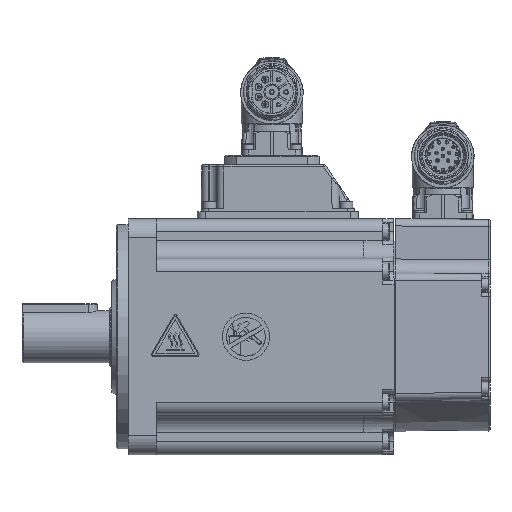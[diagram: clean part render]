
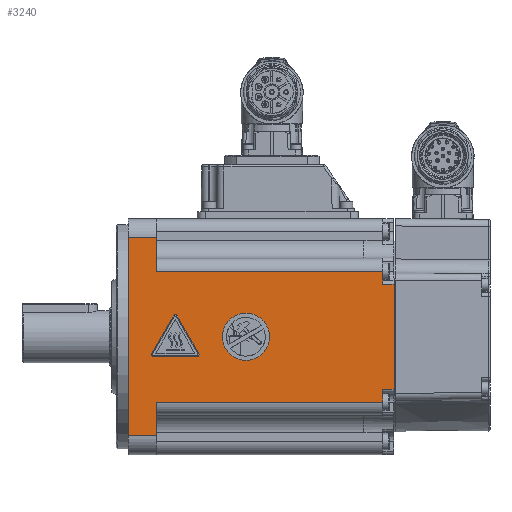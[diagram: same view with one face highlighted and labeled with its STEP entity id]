
A CAD part, front view. The second image highlights one B-rep face of the part: STEP entity #3240.
In plain terms, the highlighted planar face has unit normal (0, -1, 0).
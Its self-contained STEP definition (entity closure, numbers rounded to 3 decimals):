
#3240 = ADVANCED_FACE( '', ( #8790, #8791, #8792 ), #8793, .T. );
#8790 = FACE_BOUND( '', #18365, .T. );
#8791 = FACE_OUTER_BOUND( '', #18366, .T. );
#8792 = FACE_BOUND( '', #18367, .T. );
#8793 = PLANE( '', #18368 );
#18365 = EDGE_LOOP( '', ( #34633 ) );
#18366 = EDGE_LOOP( '', ( #34634, #34635, #34636, #34637, #34638, #34639, #34640, #34641, #34642, #34643, #34644, #34645, #34646 ) );
#18367 = EDGE_LOOP( '', ( #34647, #34648, #34649, #34650, #34651, #34652 ) );
#18368 = AXIS2_PLACEMENT_3D( '', #34653, #34654, #34655 );
#34633 = ORIENTED_EDGE( '', *, *, #55767, .F. );
#34634 = ORIENTED_EDGE( '', *, *, #55768, .T. );
#34635 = ORIENTED_EDGE( '', *, *, #55769, .T. );
#34636 = ORIENTED_EDGE( '', *, *, #55770, .T. );
#34637 = ORIENTED_EDGE( '', *, *, #55771, .T. );
#34638 = ORIENTED_EDGE( '', *, *, #55772, .T. );
#34639 = ORIENTED_EDGE( '', *, *, #55773, .T. );
#34640 = ORIENTED_EDGE( '', *, *, #55774, .T. );
#34641 = ORIENTED_EDGE( '', *, *, #54843, .T. );
#34642 = ORIENTED_EDGE( '', *, *, #55775, .F. );
#34643 = ORIENTED_EDGE( '', *, *, #55776, .T. );
#34644 = ORIENTED_EDGE( '', *, *, #55777, .T. );
#34645 = ORIENTED_EDGE( '', *, *, #55778, .T. );
#34646 = ORIENTED_EDGE( '', *, *, #55779, .F. );
#34647 = ORIENTED_EDGE( '', *, *, #55780, .F. );
#34648 = ORIENTED_EDGE( '', *, *, #55781, .F. );
#34649 = ORIENTED_EDGE( '', *, *, #55782, .F. );
#34650 = ORIENTED_EDGE( '', *, *, #55783, .F. );
#34651 = ORIENTED_EDGE( '', *, *, #55784, .F. );
#34652 = ORIENTED_EDGE( '', *, *, #55785, .F. );
#34653 = CARTESIAN_POINT( '', ( 138.642, -50., -50. ) );
#34654 = DIRECTION( '', ( 0., -1., 0. ) );
#34655 = DIRECTION( '', ( 1., 0., 0. ) );
#54843 = EDGE_CURVE( '', #64789, #64790, #64791, .T. );
#55767 = EDGE_CURVE( '', #66384, #66384, #66385, .T. );
#55768 = EDGE_CURVE( '', #66386, #66387, #66388, .T. );
#55769 = EDGE_CURVE( '', #66387, #66389, #66390, .T. );
#55770 = EDGE_CURVE( '', #66389, #66391, #66392, .F. );
#55771 = EDGE_CURVE( '', #66391, #66393, #66394, .T. );
#55772 = EDGE_CURVE( '', #66393, #66395, #66396, .T. );
#55773 = EDGE_CURVE( '', #66395, #66397, #66398, .F. );
#55774 = EDGE_CURVE( '', #66397, #64789, #66399, .T. );
#55775 = EDGE_CURVE( '', #66400, #64790, #66401, .T. );
#55776 = EDGE_CURVE( '', #66400, #66402, #66403, .T. );
#55777 = EDGE_CURVE( '', #66402, #66404, #66405, .T. );
#55778 = EDGE_CURVE( '', #66404, #66406, #66407, .F. );
#55779 = EDGE_CURVE( '', #66386, #66406, #66408, .T. );
#55780 = EDGE_CURVE( 'NONE', #66409, #66410, #66411, .T. );
#55781 = EDGE_CURVE( 'NONE', #66412, #66409, #66413, .T. );
#55782 = EDGE_CURVE( 'NONE', #66414, #66412, #66415, .T. );
#55783 = EDGE_CURVE( 'NONE', #66416, #66414, #66417, .T. );
#55784 = EDGE_CURVE( 'NONE', #66418, #66416, #66419, .T. );
#55785 = EDGE_CURVE( 'NONE', #66410, #66418, #66420, .T. );
#64789 = VERTEX_POINT( '', #80900 );
#64790 = VERTEX_POINT( '', #80901 );
#64791 = LINE( '', #80902, #80903 );
#66384 = VERTEX_POINT( '', #83919 );
#66385 = CIRCLE( '', #83920, 10. );
#66386 = VERTEX_POINT( '', #83921 );
#66387 = VERTEX_POINT( '', #83922 );
#66388 = LINE( '', #83923, #83924 );
#66389 = VERTEX_POINT( '', #83925 );
#66390 = LINE( '', #83926, #83927 );
#66391 = VERTEX_POINT( '', #83928 );
#66392 = LINE( '', #83929, #83930 );
#66393 = VERTEX_POINT( '', #83931 );
#66394 = LINE( '', #83932, #83933 );
#66395 = VERTEX_POINT( '', #83934 );
#66396 = LINE( '', #83935, #83936 );
#66397 = VERTEX_POINT( '', #83937 );
#66398 = LINE( '', #83938, #83939 );
#66399 = LINE( '', #83940, #83941 );
#66400 = VERTEX_POINT( '', #83942 );
#66401 = LINE( '', #83943, #83944 );
#66402 = VERTEX_POINT( '', #83945 );
#66403 = LINE( '', #83946, #83947 );
#66404 = VERTEX_POINT( '', #83948 );
#66405 = LINE( '', #83949, #83950 );
#66406 = VERTEX_POINT( '', #83951 );
#66407 = LINE( '', #83952, #83953 );
#66408 = LINE( '', #83954, #83955 );
#66409 = VERTEX_POINT( 'NONE', #83956 );
#66410 = VERTEX_POINT( 'NONE', #83957 );
#66411 = CIRCLE( '', #83958, 1. );
#66412 = VERTEX_POINT( 'NONE', #83959 );
#66413 = LINE( '', #83960, #83961 );
#66414 = VERTEX_POINT( 'NONE', #83962 );
#66415 = CIRCLE( '', #83963, 1. );
#66416 = VERTEX_POINT( '', #83964 );
#66417 = LINE( '', #83965, #83966 );
#66418 = VERTEX_POINT( 'NONE', #83967 );
#66419 = CIRCLE( '', #83968, 1. );
#66420 = LINE( '', #83969, #83970 );
#80900 = CARTESIAN_POINT( '', ( -13.25, -50., 27.75 ) );
#80901 = CARTESIAN_POINT( '', ( -109.25, -50., 27.75 ) );
#80902 = CARTESIAN_POINT( '', ( 138.642, -50., 27.75 ) );
#80903 = VECTOR( '', #105741, 1000. );
#83919 = CARTESIAN_POINT( '', ( -71.25, -50., -10. ) );
#83920 = AXIS2_PLACEMENT_3D( '', #106945, #106946, #106947 );
#83921 = CARTESIAN_POINT( '', ( -109.25, -50., -27.75 ) );
#83922 = CARTESIAN_POINT( '', ( -13.25, -50., -27.75 ) );
#83923 = CARTESIAN_POINT( '', ( 138.642, -50., -27.75 ) );
#83924 = VECTOR( '', #106948, 1000. );
#83925 = CARTESIAN_POINT( '', ( -13.25, -50., -22.25 ) );
#83926 = CARTESIAN_POINT( '', ( -13.25, -50., 50. ) );
#83927 = VECTOR( '', #106949, 1000. );
#83928 = CARTESIAN_POINT( '', ( -8.444, -50., -22.25 ) );
#83929 = CARTESIAN_POINT( '', ( -8.25, -50., -22.25 ) );
#83930 = VECTOR( '', #106950, 1000. );
#83931 = CARTESIAN_POINT( '', ( -8.25, -50., 0. ) );
#83932 = CARTESIAN_POINT( '', ( -7.818, -50., 49.545 ) );
#83933 = VECTOR( '', #106951, 1000. );
#83934 = CARTESIAN_POINT( '', ( -8.444, -50., 22.25 ) );
#83935 = CARTESIAN_POINT( '', ( -8.69, -50., 50.448 ) );
#83936 = VECTOR( '', #106952, 1000. );
#83937 = CARTESIAN_POINT( '', ( -13.25, -50., 22.25 ) );
#83938 = CARTESIAN_POINT( '', ( -13.25, -50., 22.25 ) );
#83939 = VECTOR( '', #106953, 1000. );
#83940 = CARTESIAN_POINT( '', ( -13.25, -50., 50. ) );
#83941 = VECTOR( '', #106954, 1000. );
#83942 = CARTESIAN_POINT( '', ( -109.25, -50., 42. ) );
#83943 = CARTESIAN_POINT( '', ( -109.25, -50., -50. ) );
#83944 = VECTOR( '', #106955, 1000. );
#83945 = CARTESIAN_POINT( '', ( -121.25, -50., 42. ) );
#83946 = CARTESIAN_POINT( '', ( 138.642, -50., 42. ) );
#83947 = VECTOR( '', #106956, 1000. );
#83948 = CARTESIAN_POINT( '', ( -121.25, -50., -42. ) );
#83949 = CARTESIAN_POINT( '', ( -121.25, -50., -50. ) );
#83950 = VECTOR( '', #106957, 1000. );
#83951 = CARTESIAN_POINT( '', ( -109.25, -50., -42. ) );
#83952 = CARTESIAN_POINT( '', ( 138.642, -50., -42. ) );
#83953 = VECTOR( '', #106958, 1000. );
#83954 = CARTESIAN_POINT( '', ( -109.25, -50., -50. ) );
#83955 = VECTOR( '', #106959, 1000. );
#83956 = CARTESIAN_POINT( '', ( -111.249, -50., -7. ) );
#83957 = CARTESIAN_POINT( '', ( -110.383, -50., -8.5 ) );
#83958 = AXIS2_PLACEMENT_3D( '', #106960, #106961, #106962 );
#83959 = CARTESIAN_POINT( '', ( -102.116, -50., 8.801 ) );
#83960 = CARTESIAN_POINT( '', ( -111.249, -50., -7. ) );
#83961 = VECTOR( '', #106963, 1000. );
#83962 = CARTESIAN_POINT( '', ( -100.384, -50., 8.801 ) );
#83963 = AXIS2_PLACEMENT_3D( '', #106964, #106965, #106966 );
#83964 = CARTESIAN_POINT( '', ( -91.251, -50., -7. ) );
#83965 = CARTESIAN_POINT( '', ( -100.384, -50., 8.801 ) );
#83966 = VECTOR( '', #106967, 1000. );
#83967 = CARTESIAN_POINT( '', ( -92.117, -50., -8.5 ) );
#83968 = AXIS2_PLACEMENT_3D( '', #106968, #106969, #106970 );
#83969 = CARTESIAN_POINT( '', ( -110.383, -50., -8.5 ) );
#83970 = VECTOR( '', #106971, 1000. );
#105741 = DIRECTION( '', ( -1., 0., 0. ) );
#106945 = CARTESIAN_POINT( '', ( -71.25, -50., 0. ) );
#106946 = DIRECTION( '', ( 0., -1., 0. ) );
#106947 = DIRECTION( '', ( 0., 0., -1. ) );
#106948 = DIRECTION( '', ( 1., 0., 0. ) );
#106949 = DIRECTION( '', ( 0., 0., 1. ) );
#106950 = DIRECTION( '', ( -1., 0., 0. ) );
#106951 = DIRECTION( '', ( 0.009, 0., 1. ) );
#106952 = DIRECTION( '', ( -0.009, 0., 1. ) );
#106953 = DIRECTION( '', ( 1., 0., 0. ) );
#106954 = DIRECTION( '', ( 0., 0., 1. ) );
#106955 = DIRECTION( '', ( 0., 0., -1. ) );
#106956 = DIRECTION( '', ( -1., 0., 0. ) );
#106957 = DIRECTION( '', ( 0., 0., -1. ) );
#106958 = DIRECTION( '', ( -1., 0., 0. ) );
#106959 = DIRECTION( '', ( 0., 0., -1. ) );
#106960 = CARTESIAN_POINT( '', ( -110.383, -50., -7.5 ) );
#106961 = DIRECTION( '', ( 0., -1., 0. ) );
#106962 = DIRECTION( '', ( -1., 0., 0. ) );
#106963 = DIRECTION( '', ( -0.5, 0., -0.866 ) );
#106964 = CARTESIAN_POINT( '', ( -101.25, -50., 8.301 ) );
#106965 = DIRECTION( '', ( 0., -1., 0. ) );
#106966 = DIRECTION( '', ( -1., 0., 0. ) );
#106967 = DIRECTION( '', ( -0.5, 0., 0.866 ) );
#106968 = CARTESIAN_POINT( '', ( -92.117, -50., -7.5 ) );
#106969 = DIRECTION( '', ( 0., -1., 0. ) );
#106970 = DIRECTION( '', ( 1., 0., 0. ) );
#106971 = DIRECTION( '', ( 1., 0., 0. ) );
